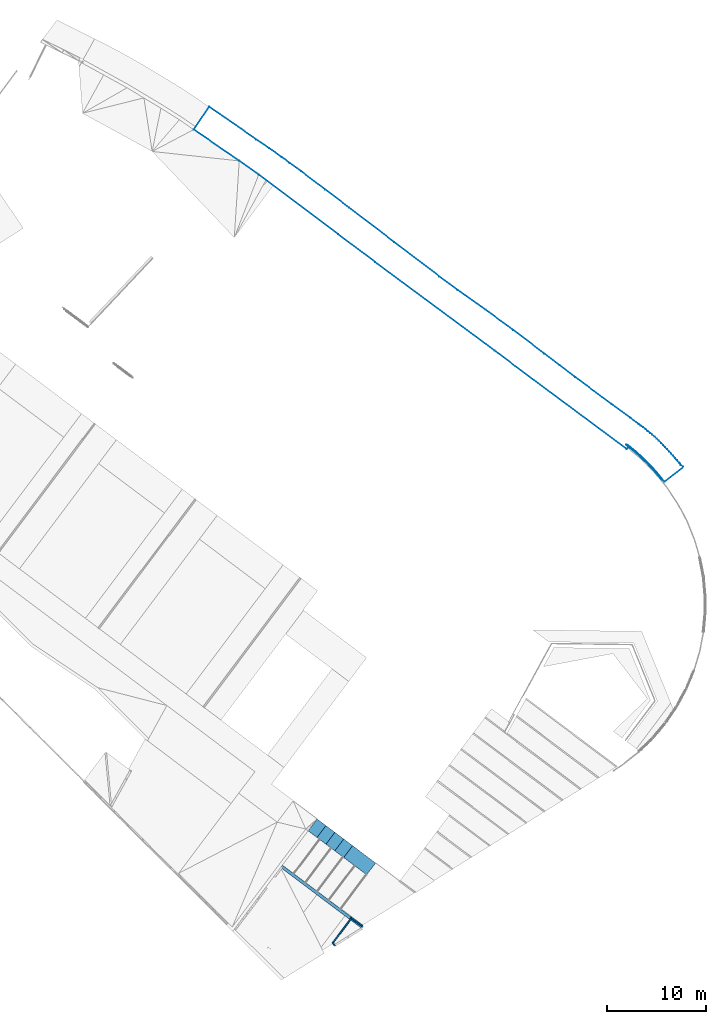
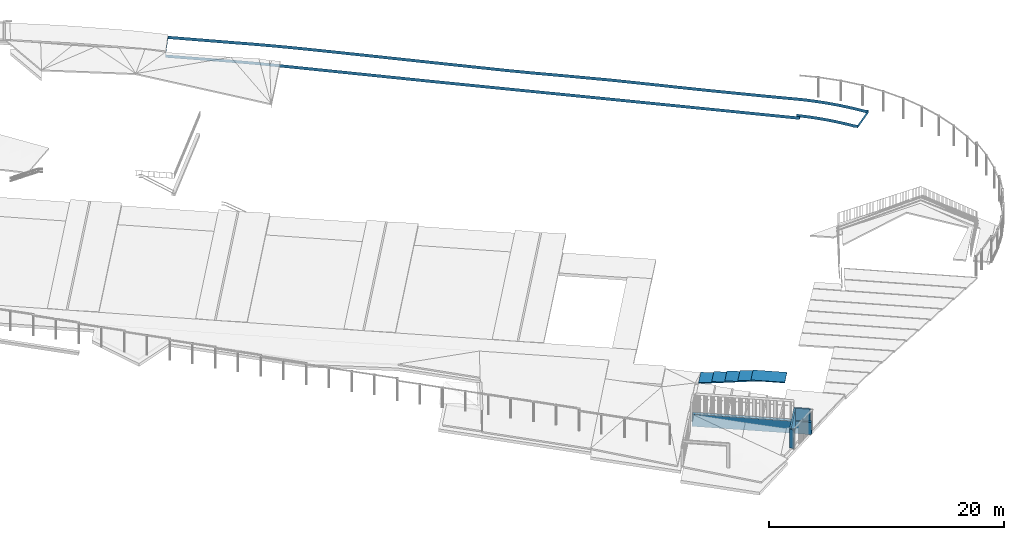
# One storey, part 24 of 33: 4 walls, 2 stair flights, 1 slab, 2 elements without a shape of their own.
"""IFC2X3 building model written with IfcOpenShell, lengths in metres."""

from ifc_helpers import new_model, entity, si_unit, converted_unit, derived_unit, direction, frame, frame_2d, origin, place, context, subcontext, project, spatial, polyline, ellipse_curve, parameter, trimmed, segment, composite_curve, rectangle, outline, extrude, faceted_brep, material, layer, layer_set, layer_usage, type_object, element, aggregate, save


model = new_model("IFC2X3")

# Units and contexts
model_context = context("Model", 3, precision=1e-05, world=origin(), true_north=direction((6.123031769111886e-17, 1.0)))
body_context = subcontext(model_context, "Body", "Model", "MODEL_VIEW")
ifc_project = project(units=[si_unit("LENGTHUNIT", "METRE"), si_unit("AREAUNIT", "SQUARE_METRE"), si_unit("VOLUMEUNIT", "CUBIC_METRE"), converted_unit("PLANEANGLEUNIT", "DEGREE", entity("IfcRatioMeasure", 0.017453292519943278), si_unit("PLANEANGLEUNIT", "RADIAN"), dimensions=[0, 0, 0, 0, 0, 0, 0]), si_unit("MASSUNIT", "GRAM", prefix="KILO"), derived_unit("MASSDENSITYUNIT", [(si_unit("MASSUNIT", "GRAM", prefix="KILO"), 1), (si_unit("LENGTHUNIT", "METRE"), -3)]), derived_unit("IONCONCENTRATIONUNIT", [(si_unit("MASSUNIT", "GRAM", prefix="KILO"), 1), (si_unit("LENGTHUNIT", "METRE"), -3)]), derived_unit("MOMENTOFINERTIAUNIT", [(si_unit("LENGTHUNIT", "METRE"), 4)]), si_unit("TIMEUNIT", "SECOND"), si_unit("FREQUENCYUNIT", "HERTZ"), si_unit("THERMODYNAMICTEMPERATUREUNIT", "DEGREE_CELSIUS"), derived_unit("THERMALTRANSMITTANCEUNIT", [(si_unit("MASSUNIT", "GRAM", prefix="KILO"), 1), (si_unit("THERMODYNAMICTEMPERATUREUNIT", "KELVIN"), -1), (si_unit("TIMEUNIT", "SECOND"), -3)]), derived_unit("THERMALCONDUCTANCEUNIT", [(si_unit("MASSUNIT", "GRAM", prefix="KILO"), 1), (si_unit("THERMODYNAMICTEMPERATUREUNIT", "KELVIN"), -1), (si_unit("TIMEUNIT", "SECOND"), -3), (si_unit("LENGTHUNIT", "METRE"), 1)]), derived_unit("VOLUMETRICFLOWRATEUNIT", [(si_unit("LENGTHUNIT", "METRE"), 3), (si_unit("TIMEUNIT", "SECOND"), -1)]), derived_unit("MASSFLOWRATEUNIT", [(si_unit("MASSUNIT", "GRAM", prefix="KILO"), 1), (si_unit("TIMEUNIT", "SECOND"), -1)]), derived_unit("ROTATIONALFREQUENCYUNIT", [(si_unit("TIMEUNIT", "SECOND"), -1)]), si_unit("ELECTRICCURRENTUNIT", "AMPERE"), si_unit("ELECTRICVOLTAGEUNIT", "VOLT"), si_unit("POWERUNIT", "WATT"), si_unit("FORCEUNIT", "NEWTON", prefix="KILO"), si_unit("ILLUMINANCEUNIT", "LUX"), si_unit("LUMINOUSFLUXUNIT", "LUMEN"), si_unit("LUMINOUSINTENSITYUNIT", "CANDELA"), derived_unit("USERDEFINED", [(si_unit("MASSUNIT", "GRAM", prefix="KILO"), -1), (si_unit("LENGTHUNIT", "METRE"), -2), (si_unit("TIMEUNIT", "SECOND"), 3), (si_unit("LUMINOUSFLUXUNIT", "LUMEN"), 1)]), derived_unit("USERDEFINED", [(si_unit("MASSUNIT", "GRAM", prefix="KILO"), 1), (si_unit("TIMEUNIT", "SECOND"), -3), (si_unit("LENGTHUNIT", "METRE"), 3), (si_unit("ELECTRICCURRENTUNIT", "AMPERE"), -2)]), derived_unit("SOUNDPOWERUNIT", [(si_unit("MASSUNIT", "GRAM", prefix="KILO"), 1), (si_unit("TIMEUNIT", "SECOND"), -3), (si_unit("LENGTHUNIT", "METRE"), 2)]), derived_unit("SOUNDPRESSUREUNIT", [(si_unit("MASSUNIT", "GRAM", prefix="KILO"), 1), (si_unit("LENGTHUNIT", "METRE"), -1), (si_unit("TIMEUNIT", "SECOND"), -2)]), derived_unit("LINEARVELOCITYUNIT", [(si_unit("LENGTHUNIT", "METRE"), 1), (si_unit("TIMEUNIT", "SECOND"), -1)]), si_unit("PRESSUREUNIT", "PASCAL"), derived_unit("USERDEFINED", [(si_unit("MASSUNIT", "GRAM", prefix="KILO"), 1), (si_unit("LENGTHUNIT", "METRE"), -2), (si_unit("TIMEUNIT", "SECOND"), -2)]), derived_unit("LINEARFORCEUNIT", [(si_unit("MASSUNIT", "GRAM", prefix="KILO"), 1), (si_unit("TIMEUNIT", "SECOND"), -2)]), derived_unit("PLANARFORCEUNIT", [(si_unit("MASSUNIT", "GRAM", prefix="KILO"), 1), (si_unit("LENGTHUNIT", "METRE"), -1), (si_unit("TIMEUNIT", "SECOND"), -2)]), derived_unit("SPECIFICHEATCAPACITYUNIT", [(si_unit("THERMODYNAMICTEMPERATUREUNIT", "KELVIN"), -1), (si_unit("LENGTHUNIT", "METRE"), 2), (si_unit("TIMEUNIT", "SECOND"), -2)]), derived_unit("HEATINGVALUEUNIT", [(si_unit("LENGTHUNIT", "METRE"), 2), (si_unit("TIMEUNIT", "SECOND"), -2)]), derived_unit("VAPORPERMEABILITYUNIT", [(si_unit("LENGTHUNIT", "METRE"), -1), (si_unit("TIMEUNIT", "SECOND"), 1)]), derived_unit("DYNAMICVISCOSITYUNIT", [(si_unit("MASSUNIT", "GRAM", prefix="KILO"), 1), (si_unit("TIMEUNIT", "SECOND"), -1), (si_unit("LENGTHUNIT", "METRE"), -1)]), derived_unit("THERMALEXPANSIONCOEFFICIENTUNIT", [(si_unit("THERMODYNAMICTEMPERATUREUNIT", "KELVIN"), -1)]), derived_unit("MODULUSOFELASTICITYUNIT", [(si_unit("MASSUNIT", "GRAM", prefix="KILO"), 1), (si_unit("LENGTHUNIT", "METRE"), -1), (si_unit("TIMEUNIT", "SECOND"), -2)]), derived_unit("ISOTHERMALMOISTURECAPACITYUNIT", [(si_unit("LENGTHUNIT", "METRE"), 3), (si_unit("MASSUNIT", "GRAM", prefix="KILO"), -1)]), derived_unit("MOISTUREDIFFUSIVITYUNIT", [(si_unit("TIMEUNIT", "SECOND"), -1), (si_unit("LENGTHUNIT", "METRE"), 2)])], contexts=[model_context])

# Site, building, storey
site_placement = place(None, origin())
site = spatial("IfcSite", under=ifc_project, at=site_placement, Name="Superficie", CompositionType="ELEMENT")
building_placement = place(site_placement, frame((0.0, 0.0, 235.0), z_axis=(0.0, 0.0, 1.0), x_axis=(-0.7996477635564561, 0.6004693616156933, 0.0)))
building = spatial("IfcBuilding", under=site, at=building_placement, CompositionType="ELEMENT")
storey_placement = place(building_placement, origin())
storey = spatial("IfcBuildingStorey", under=building, at=storey_placement, Name="P0- Escola", CompositionType="ELEMENT", Elevation=0.0)

# Slab
ifc_material_1 = material(Name="_Topografia- Plataformes")
ifc_layer_1 = layer(ifc_material_1, 0.29999999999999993)
ifc_layer_set_1 = layer_set([ifc_layer_1], Name="Plataforma:300 mm")
ifc_layer_usage_1 = layer_usage(ifc_layer_set_1, "AXIS3", "POSITIVE", 0.0)
slab_type = type_object("IfcSlabType", Name="Plataforma:300 mm", PredefinedType="FLOOR", material=ifc_layer_set_1)
slab_placement = place(storey_placement, frame((1.9953077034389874, -69.2927799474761, -8.17890643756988)))
element("IfcSlab", 1, at=slab_placement, inside=storey, type_object=slab_type, material=ifc_layer_usage_1, Name="Plataforma:300 mm", ObjectType="Plataforma:300 mm", PredefinedType="FLOOR", context=body_context, shape_type="SweptSolid", body=[
    extrude(outline(composite_curve([segment(polyline([(0.09008099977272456, 2.208795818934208), (-5.685616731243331, 2.434099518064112)]), True, "CONTINUOUS"), segment(polyline([(-5.685616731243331, 2.434099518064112), (-7.255787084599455, 2.500612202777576)]), True, "CONTINUOUS"), segment(polyline([(-7.255787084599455, 2.500612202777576), (-8.803578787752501, 2.5440690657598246)]), True, "CONTINUOUS"), segment(polyline([(-8.803578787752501, 2.5440690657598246), (-9.806836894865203, 2.560700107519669)]), True, "CONTINUOUS"), segment(polyline([(-9.806836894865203, 2.560700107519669), (-11.211796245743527, 2.5748791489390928)]), True, "CONTINUOUS"), segment(polyline([(-11.211796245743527, 2.5748791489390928), (-14.273508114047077, 2.5672639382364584)]), True, "CONTINUOUS"), segment(polyline([(-14.273508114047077, 2.5672639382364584), (-17.330976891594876, 2.5462545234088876)]), True, "CONTINUOUS"), segment(polyline([(-17.330976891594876, 2.5462545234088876), (-23.046033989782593, 2.5032011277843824)]), True, "CONTINUOUS"), segment(polyline([(-23.046033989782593, 2.5032011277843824), (-28.756879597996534, 2.4673720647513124)]), True, "CONTINUOUS"), segment(polyline([(-28.756879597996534, 2.4673720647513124), (-31.051099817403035, 2.4874677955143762)]), True, "CONTINUOUS"), segment(polyline([(-31.051099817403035, 2.4874677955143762), (-34.49821709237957, 2.570054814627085)]), True, "CONTINUOUS"), segment(polyline([(-34.49821709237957, 2.570054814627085), (-37.95315200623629, 2.625572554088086)]), True, "CONTINUOUS"), segment(polyline([(-37.95315200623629, 2.625572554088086), (-41.87872563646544, 2.60324203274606)]), True, "CONTINUOUS"), segment(polyline([(-41.87872563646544, 2.60324203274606), (-43.84000924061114, 2.584395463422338)]), True, "CONTINUOUS"), segment(polyline([(-43.84000924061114, 2.584395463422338), (-45.796977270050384, 2.57655507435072)]), True, "CONTINUOUS"), segment(polyline([(-45.796977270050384, 2.57655507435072), (-50.385894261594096, 2.5930360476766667)]), True, "CONTINUOUS"), segment(polyline([(-50.385894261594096, 2.5930360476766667), (-52.678148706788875, 2.620940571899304)]), True, "CONTINUOUS"), segment(polyline([(-52.678148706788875, 2.620940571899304), (-53.782441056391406, 2.6437234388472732)]), True, "CONTINUOUS"), segment(polyline([(-53.782441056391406, 2.6437234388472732), (-54.341618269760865, 2.646997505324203)]), True, "CONTINUOUS"), segment(trimmed(ellipse_curve(frame_2d((-53.88616844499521, -19.797293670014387), x_axis=(0.0, 1.0)), 22.44476535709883, 22.421669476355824), [parameter(0.37243739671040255)], [parameter(14.91679935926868)], True, "PARAMETER"), True, "CONTINUOUS"), segment(polyline([(-59.97219082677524, 1.891097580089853), (-59.35327623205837, -0.42786209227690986)]), True, "CONTINUOUS"), segment(trimmed(ellipse_curve(frame_2d((-53.88615790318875, -19.792497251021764), x_axis=(0.0, 1.0)), 20.03996918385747, 20.019347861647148), [parameter(0.37182431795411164)], [parameter(14.91679932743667)], True, "PARAMETER"), False, "CONTINUOUS"), segment(polyline([(-54.32576490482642, 0.2470499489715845), (-54.325764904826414, -0.10295608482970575)]), True, "CONTINUOUS"), segment(polyline([(-54.325764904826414, -0.10295608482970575), (-37.68980793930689, -0.18029810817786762)]), True, "CONTINUOUS"), segment(polyline([(-37.68980793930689, -0.18029810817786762), (-22.734434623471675, -0.26128402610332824)]), True, "CONTINUOUS"), segment(polyline([(-22.734434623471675, -0.26128402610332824), (-18.00541044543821, -0.2612840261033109)]), True, "CONTINUOUS"), segment(polyline([(-18.00541044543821, -0.2612840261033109), (-7.996707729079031, -0.26128402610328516)]), True, "CONTINUOUS"), segment(polyline([(-7.996707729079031, -0.26128402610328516), (-5.597408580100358, -0.3286966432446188)]), True, "CONTINUOUS"), segment(polyline([(-5.597408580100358, -0.3286966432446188), (-0.023035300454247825, -0.5648280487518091)]), True, "CONTINUOUS"), segment(polyline([(-0.023035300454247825, -0.5648280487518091), (0.09008099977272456, 2.208795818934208)]), True, "CONTINUOUS")], self_intersect=False)), frame((59.92299460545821, 2.6469975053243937, 2.728906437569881), z_axis=(0.04049643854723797, 0.0, -0.999179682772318), x_axis=(0.999179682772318, 0.0, 0.04049643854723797)), (-0.04049643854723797, 0.0, 0.999179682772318), 0.30024629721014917),
])

# Walls
ifc_material_2 = material(Name="_Formigó- T1- STR")
ifc_layer_2 = layer(ifc_material_2, 0.29999999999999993)
ifc_layer_set_2 = layer_set([ifc_layer_2], Name="Muro básico:STR- M- Formigó- Genèric- T1- 30 cm")
ifc_layer_usage_2 = layer_usage(ifc_layer_set_2, "AXIS2", "NEGATIVE", 0.14999999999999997)
wall_type_1 = type_object("IfcWallType", Name="Muro básico:STR- M- Formigó- Genèric- T1- 30 cm", PredefinedType="STANDARD", material=ifc_layer_set_2)
wall_1_placement = place(storey_placement, frame((-0.0021017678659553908, -12.015191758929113, -2.0)))
element("IfcWallStandardCase", 2, at=wall_1_placement, inside=storey, type_object=wall_type_1, material=ifc_layer_usage_2, Name="Muro básico:STR- M- Formigó- Genèric- T1- 30 cm", ObjectType="Muro básico:STR- M- Formigó- Genèric- T1- 30 cm", context=body_context, shape_type="SweptSolid", body=[
    extrude(rectangle(XDim=10.227249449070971, YDim=0.3000000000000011, at=frame_2d((5.1136247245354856, 4.440892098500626e-16), x_axis=(-1.0, 0.0))), origin(), (0.0, 0.0, 1.0), 1.2699999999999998),
])
ifc_material_3 = material(Name="_Ceràmica- ENV")
ifc_layer_3 = layer(ifc_material_3, 0.14)
ifc_layer_set_3 = layer_set([ifc_layer_3], Name="Muro básico:ENV- Ceràmic- 14 cm")
ifc_layer_usage_3 = layer_usage(ifc_layer_set_3, "AXIS2", "POSITIVE", -0.07)
wall_type_2 = type_object("IfcWallType", Name="Muro básico:ENV- Ceràmic- 14 cm", PredefinedType="STANDARD", material=ifc_layer_set_3)
wall_2_placement = place(storey_placement, frame((0.12495005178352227, -12.095230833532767, -0.73)))
element("IfcWallStandardCase", 3, at=wall_2_placement, inside=storey, type_object=wall_type_2, material=ifc_layer_usage_3, Name="Muro básico:ENV- Ceràmic- 14 cm", ObjectType="Muro básico:ENV- Ceràmic- 14 cm", context=body_context, shape_type="SweptSolid", body=[
    extrude(rectangle(XDim=1.4000000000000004, YDim=0.1399999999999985, at=frame_2d((0.7000000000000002, -2.706168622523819e-16), x_axis=(-1.0, 0.0))), origin(), (0.0, 0.0, 1.0), 1.2450000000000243),
])
ifc_layer_usage_4 = layer_usage(ifc_layer_set_3, "AXIS2", "NEGATIVE", 0.07)
wall_3_placement = place(storey_placement, frame((1.116364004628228, -8.83117207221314, -1.424999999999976), z_axis=(0.0, 0.0, 1.0), x_axis=(0.9327027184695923, -0.36064614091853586, 0.0)))
element("IfcWallStandardCase", 4, at=wall_3_placement, inside=storey, type_object=wall_type_2, material=ifc_layer_usage_4, Name="Muro básico:ENV- Ceràmic- 14 cm", ObjectType="Muro básico:ENV- Ceràmic- 14 cm", context=body_context, shape_type="SweptSolid", body=[
    extrude(outline(polyline([(0.4651334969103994, -0.0700000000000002), (0.4109999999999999, 0.07000000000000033), (0.0, 0.07000000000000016), (0.0, -0.0700000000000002), (0.31503207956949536, -0.06999999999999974), (0.4651334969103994, -0.0700000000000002)])), origin(), (0.0, 0.0, 1.0), 1.9400000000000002),
])
wall_4_placement = place(storey_placement, frame((1.4549500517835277, -9.010076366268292, -1.424999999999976), z_axis=(0.0, 0.0, 1.0), x_axis=(0.0, -1.0, 0.0)))
element("IfcWall", 5, at=wall_4_placement, inside=storey, type_object=wall_type_2, Name="Muro básico:ENV- Ceràmic- 14 cm", ObjectType="Muro básico:ENV- Ceràmic- 14 cm", context=body_context, shape_type="Brep", body=[
    faceted_brep([(0.0, -0.07000000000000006, 0.0), (2.8551153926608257, -0.06999999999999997, 0.0), (2.8551153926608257, -0.06999999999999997, 0.694999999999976), (3.01515446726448, -0.06999999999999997, 0.694999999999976), (3.01515446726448, -0.06999999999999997, 1.9400000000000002), (0.0, -0.07000000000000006, 1.9400000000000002), (0.054133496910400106, 0.07000000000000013, 0.0), (0.054133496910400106, 0.07000000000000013, 1.9400000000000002), (3.01515446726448, 0.07000000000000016, 1.9400000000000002), (3.01515446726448, 0.07000000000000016, 0.694999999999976), (2.8551153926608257, 0.07000000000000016, 0.694999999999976), (2.8551153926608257, 0.07000000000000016, 0.0)], [[[0, 1, 2, 3, 4, 5]], [[6, 7, 8, 9, 10, 11]], [[0, 5, 7, 6]], [[4, 3, 9, 8]], [[1, 0, 6, 11]], [[5, 4, 8, 7]], [[2, 1, 11, 10]], [[3, 2, 10, 9]]]),
])

# Stair, stair flight
stair_1_placement = place(storey_placement, origin())
stair_1 = element("IfcStair", 6, at=stair_1_placement, inside=storey, Name="Escalera moldeada in situ:Escalera", ShapeType="STRAIGHT_RUN_STAIR")
ifc_material_4 = material(Name="_PAV escales STR")
stair_flight_type_1 = type_object("IfcStairFlightType", Name="Tramo monolítico:E00- STR- ReplaFormigoInclinat", PredefinedType="NOTDEFINED")
stair_flight_1_placement = place(stair_1_placement, frame((5.745147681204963, -17.99019175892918, 0.0)))
stair_flight_1 = element("IfcStairFlight", 7, at=stair_flight_1_placement, type_object=stair_flight_type_1, material=ifc_material_4, Name="Escalera moldeada in situ:Escalera:311998 Run 1", ObjectType="Tramo monolítico:E00- STR- ReplaFormigoInclinat", NumberOfRiser=5, NumberOfTreads=4, RiserHeight=0.5019685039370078, TreadLength=0.984251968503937, context=body_context, shape_type="SweptSolid", body=[
    extrude(outline(polyline([(0.20418780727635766, -2.2400000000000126), (0.3656873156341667, -2.2400000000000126), (0.2148121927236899, -1.1199999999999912), (0.21268731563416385, -1.1199999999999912), (0.06181219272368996, 0.0), (0.05968731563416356, 0.0), (-0.09118780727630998, 1.1200000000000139), (-0.09331268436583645, 1.1200000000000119), (-0.24418780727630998, 2.240000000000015), (-0.32568731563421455, 2.2400000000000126), (-0.25481219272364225, 1.1199999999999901), (-0.17268731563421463, 1.1200000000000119), (-0.10181219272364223, 0.0), (-0.01968731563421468, 0.0), (0.05118780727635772, -1.1200000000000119), (0.13331268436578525, -1.1199999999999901), (0.20418780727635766, -2.2400000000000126)])), frame((2.2400000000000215, 0.0, -0.42781219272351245), z_axis=(0.0, 1.0, 0.0), x_axis=(0.0, 0.0, -1.0)), (0.0, 0.0, 1.0), 1.4999999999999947),
])
aggregate(stair_1, [stair_flight_1])

stair_2_placement = place(storey_placement, origin())
stair_2 = element("IfcStair", 8, at=stair_2_placement, inside=storey, Name="Escalera moldeada in situ:Escalera", ShapeType="STRAIGHT_RUN_STAIR")
stair_flight_type_2 = type_object("IfcStairFlightType", Name="Tramo monolítico:E00- STR- ReplaFormigoFinal", PredefinedType="STRAIGHT")
stair_flight_2_placement = place(stair_2_placement, frame((2.845147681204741, -17.990191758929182, 0.0)))
stair_flight_2 = element("IfcStairFlight", 9, at=stair_flight_2_placement, type_object=stair_flight_type_2, material=ifc_material_4, Name="Escalera moldeada in situ:Escalera:315003 Run 1", ObjectType="Tramo monolítico:E00- STR- ReplaFormigoFinal", NumberOfRiser=2, NumberOfTreads=1, RiserHeight=0.5954724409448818, TreadLength=3.674540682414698, context=body_context, shape_type="SweptSolid", body=[
    extrude(outline(polyline([(-1.282509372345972, -0.07468917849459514), (-1.2609485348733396, -0.23474298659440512), (1.6130914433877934, 0.15241874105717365), (1.602411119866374, 0.2317026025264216), (-0.6720446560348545, -0.07468917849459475), (-1.282509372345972, -0.07468917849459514)])), frame((1.6190000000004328, 0.0, -0.08429990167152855), z_axis=(0.0, -1.0, 0.0), x_axis=(-0.9910482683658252, 0.0, 0.13350404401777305)), (0.0, 0.0, -1.0), 1.500000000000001),
])
aggregate(stair_2, [stair_flight_2])

save(model, "model.ifc")
